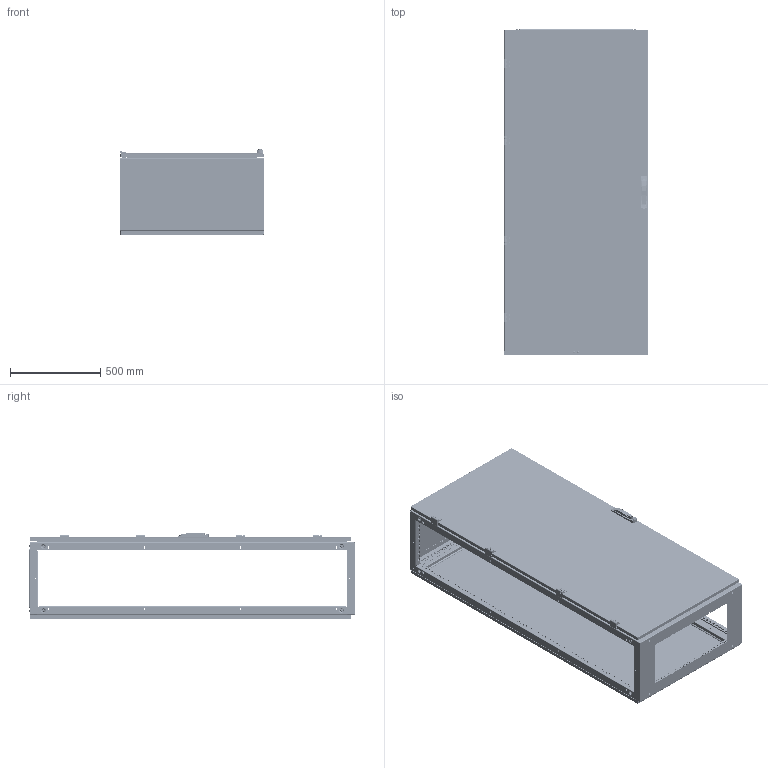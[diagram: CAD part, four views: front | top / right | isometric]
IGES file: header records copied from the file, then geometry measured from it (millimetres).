
Start section: SolidWorks IGES file using analytic representation for surfaces
Global section: file name: U:\14_RD\05_Technical_office\04_Office\Hrdinova\3D modely - IGES\Distri\QA180804.IGS; native system: SolidWorks 2011; preprocessor: SolidWorks 2011; author: adhrja3; date: 170612.081923; units: millimetre
Bounding box: 800 x 1804.5 x 476 mm (x, y, z)
Surface area: 11505862.8 mm2 (no closed solid volume)
Topology: 0 solids, 0 shells, 6310 faces, 105833 edges, 105664 vertices
Faces by surface type: bspline 3556, revolution 2754
